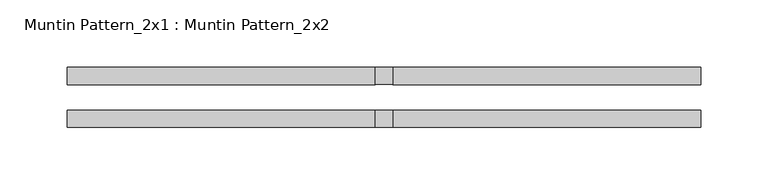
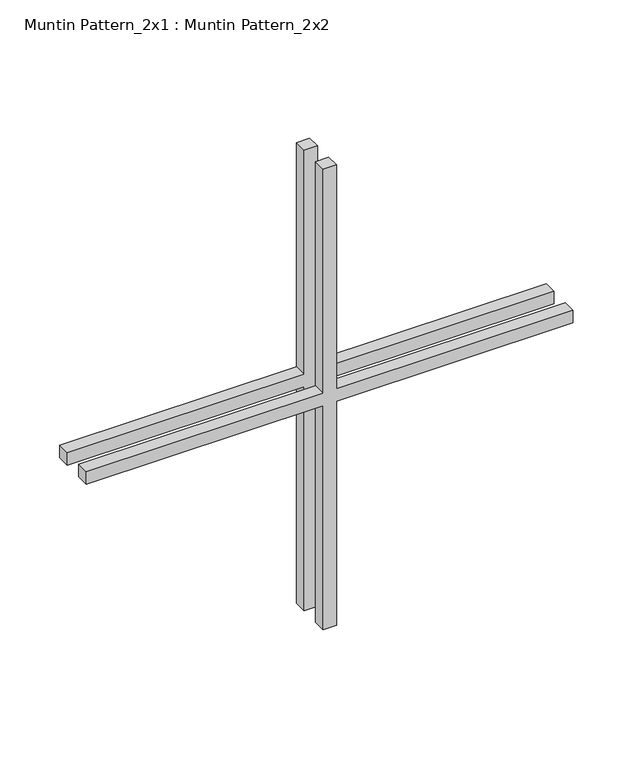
"""IFC4 building model written with IfcOpenShell, lengths in millimetres: proxy geometry, Muntin Pattern_2x1 : Muntin Pattern_2x2."""

from ifc_helpers import new_model, si_unit, frame, origin, place, context, project, spatial, polyline, outline, extrude, source, transform, mapped, element, save


def muntin_pattern_2x1_muntin_pattern_2x2_3ec9c93b(model_context):
    return source(origin(), model_context, "Body", "SweptSolid", [
        extrude(outline(polyline([(241.3, -6.35), (241.3, -234.95), (228.6, -234.95), (228.6, -6.35), (0.0, -6.35), (0.0, 6.35), (228.6, 6.35), (228.6, 234.95), (241.3, 234.95), (241.3, 6.35), (469.9, 6.35), (469.9, -6.35), (241.3, -6.35)])), frame((0.0, 9.525, 0.0), z_axis=(0.0, 1.0, 0.0), x_axis=(0.0, 0.0, 1.0)), (0.0, 0.0, 1.0), 12.7),
        extrude(outline(polyline([(241.3, -6.35), (241.3, -234.95), (228.6, -234.95), (228.6, -6.35), (0.0, -6.35), (0.0, 6.35), (228.6, 6.35), (228.6, 234.95), (241.3, 234.95), (241.3, 6.35), (469.9, 6.35), (469.9, -6.35), (241.3, -6.35)])), frame((0.0, -22.225, 0.0), z_axis=(0.0, 1.0, 0.0), x_axis=(0.0, 0.0, 1.0)), (0.0, 0.0, 1.0), 12.7),
    ])


if __name__ == "__main__":
    model = new_model("IFC4")
    model_context = context("Model", 3, world=origin())
    ifc_project = project(units=[si_unit("LENGTHUNIT", "METRE", prefix="MILLI")], contexts=[model_context])
    site = spatial("IfcSite", under=ifc_project)
    building = spatial("IfcBuilding", under=site)
    placement = place(None, origin())
    muntin_pattern_2x1_muntin_pattern_2x2_shape = muntin_pattern_2x1_muntin_pattern_2x2_3ec9c93b(model_context)
    element("IfcBuildingElementProxy", 1, Name="Muntin Pattern_2x1 : Muntin Pattern_2x2", ObjectType="Muntin Pattern_2x1 : Muntin Pattern_2x2", at=placement, inside=building, context=model_context, shape_type="MappedRepresentation", body=[
        mapped(muntin_pattern_2x1_muntin_pattern_2x2_shape, transform((0.0, 0.0, 0.0), x_axis=(1.0, 0.0, 0.0), y_axis=(0.0, 1.0, 0.0), z_axis=(0.0, 0.0, 1.0))),
    ])
    save(model, "model.ifc")
